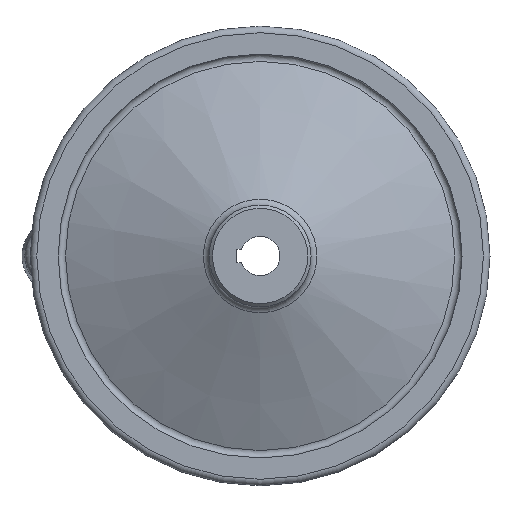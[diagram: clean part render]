
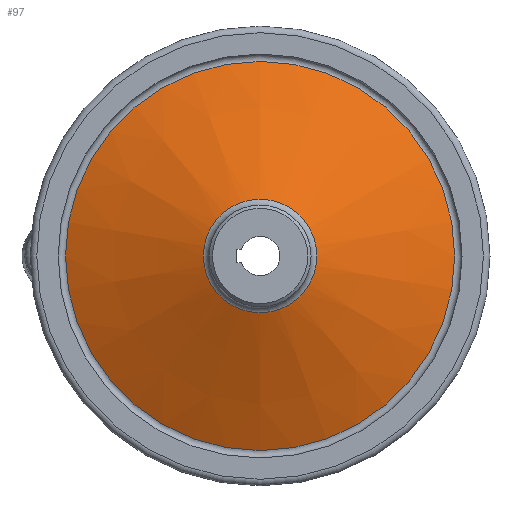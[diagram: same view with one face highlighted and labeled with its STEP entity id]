
A CAD part, left-side view. The second image highlights one B-rep face of the part: STEP entity #97.
In plain terms, the highlighted conical face has half-angle 66 degrees and reference radius 17.28 mm.
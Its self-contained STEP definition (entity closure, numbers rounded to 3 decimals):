
#97 = ADVANCED_FACE( '', ( #170, #171 ), #172, .T. );
#170 = FACE_OUTER_BOUND( '', #260, .T. );
#171 = FACE_BOUND( '', #261, .T. );
#172 = CONICAL_SURFACE( '', #262, 17.28, 1.152 );
#260 = EDGE_LOOP( '', ( #412 ) );
#261 = EDGE_LOOP( '', ( #413 ) );
#262 = AXIS2_PLACEMENT_3D( '', #414, #415, #416 );
#412 = ORIENTED_EDGE( '', *, *, #488, .T. );
#413 = ORIENTED_EDGE( '', *, *, #489, .F. );
#414 = CARTESIAN_POINT( '', ( 9.792, 0., 0. ) );
#415 = DIRECTION( '', ( 1., 0., 0. ) );
#416 = DIRECTION( '', ( 0., 0., -1. ) );
#488 = EDGE_CURVE( '', #552, #552, #553, .T. );
#489 = EDGE_CURVE( '', #554, #554, #555, .T. );
#552 = VERTEX_POINT( '', #634 );
#553 = CIRCLE( '', #635, 59.249 );
#554 = VERTEX_POINT( '', #636 );
#555 = CIRCLE( '', #637, 17.28 );
#634 = CARTESIAN_POINT( '', ( 28.478, 0., 59.249 ) );
#635 = AXIS2_PLACEMENT_3D( '', #720, #721, #722 );
#636 = CARTESIAN_POINT( '', ( 9.792, 0., 17.28 ) );
#637 = AXIS2_PLACEMENT_3D( '', #723, #724, #725 );
#720 = CARTESIAN_POINT( '', ( 28.478, 0., 0. ) );
#721 = DIRECTION( '', ( -1., 0., 0. ) );
#722 = DIRECTION( '', ( 0., 0., 1. ) );
#723 = CARTESIAN_POINT( '', ( 9.792, 0., 0. ) );
#724 = DIRECTION( '', ( -1., 0., 0. ) );
#725 = DIRECTION( '', ( 0., 0., 1. ) );
